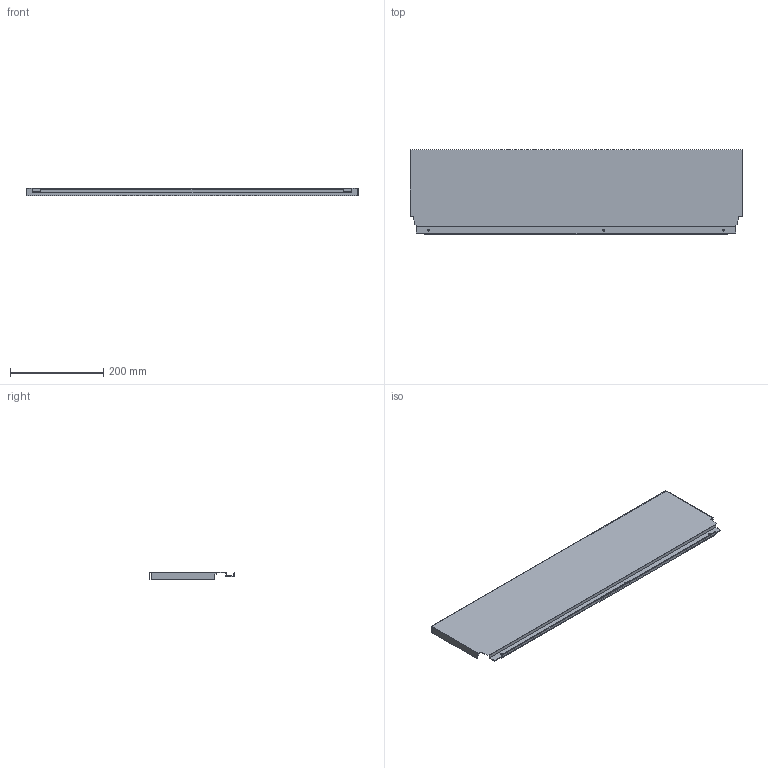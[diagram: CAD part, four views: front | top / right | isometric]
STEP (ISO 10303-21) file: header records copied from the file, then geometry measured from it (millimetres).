
FILE_DESCRIPTION (( 'STEP AP214' ), '1' );
FILE_NAME ('_DWD_XP Stahlrückwand_H182_KAB800_S18.step', '2010-07-08T12:57:58', ( 'grass' ), ( '' ), 'SwSTEP 2.0', 'SolidWorks 2010', '' );
FILE_SCHEMA (( 'AUTOMOTIVE_DESIGN' ));
Length unit declared in the file: millimetre
Products named in the file (1): _DWD_XP Stahlrückwand_H182_KAB800_S18
Bounding box: 713 x 182.49 x 16 mm (x, y, z)
Volume: 133952.7 mm3; surface area: 310031.1 mm2
Topology: 1 solids, 1 shells, 46 faces, 132 edges, 88 vertices
Faces by surface type: plane 40, cylinder 6
Entity records: 1534 total; most frequent: CARTESIAN_POINT 267, ORIENTED_EDGE 264, DIRECTION 238, EDGE_CURVE 132, LINE 120, VECTOR 120, VERTEX_POINT 88, AXIS2_PLACEMENT_3D 59
